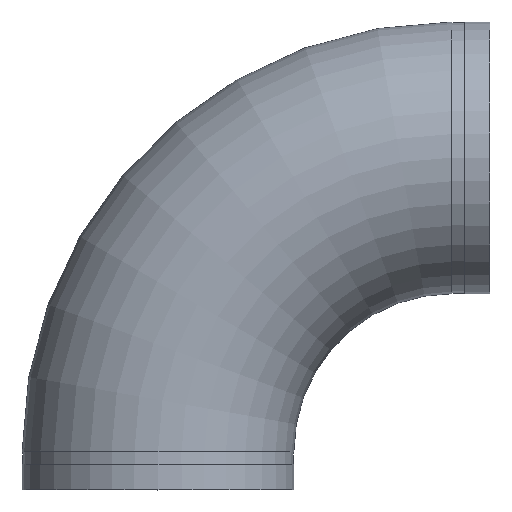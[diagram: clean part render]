
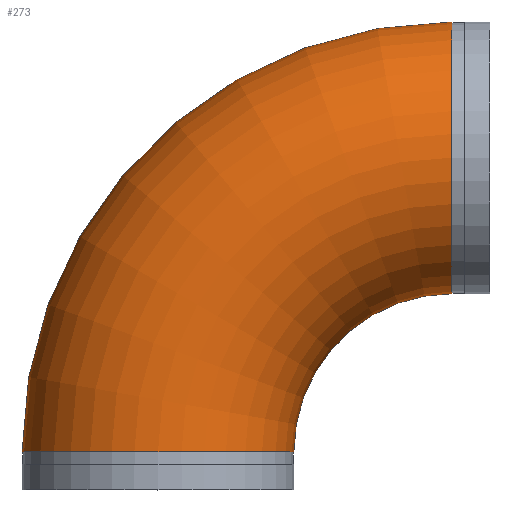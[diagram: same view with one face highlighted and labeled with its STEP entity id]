
A CAD part, top view. The second image highlights one B-rep face of the part: STEP entity #273.
In plain terms, the highlighted toroidal (fillet/blend) face has major radius 295.402 mm and minor radius 136.525 mm.
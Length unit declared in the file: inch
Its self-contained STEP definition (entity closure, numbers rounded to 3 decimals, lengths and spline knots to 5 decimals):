
#46=TOROIDAL_SURFACE('',#329,11.63,5.375);
#81=FACE_OUTER_BOUND('',#99,.T.);
#99=EDGE_LOOP('',(#227,#228,#229,#230,#231,#232));
#105=CIRCLE('',#298,5.375);
#106=CIRCLE('',#299,5.375);
#117=CIRCLE('',#315,5.375);
#118=CIRCLE('',#316,5.375);
#127=CIRCLE('',#330,6.255);
#129=VERTEX_POINT('',#460);
#130=VERTEX_POINT('',#461);
#141=VERTEX_POINT('',#491);
#142=VERTEX_POINT('',#492);
#151=EDGE_CURVE('',#129,#130,#105,.T.);
#152=EDGE_CURVE('',#130,#129,#106,.T.);
#165=EDGE_CURVE('',#141,#142,#117,.T.);
#166=EDGE_CURVE('',#142,#141,#118,.T.);
#178=EDGE_CURVE('',#142,#130,#127,.T.);
#227=ORIENTED_EDGE('',*,*,#165,.F.);
#228=ORIENTED_EDGE('',*,*,#166,.F.);
#229=ORIENTED_EDGE('',*,*,#178,.T.);
#230=ORIENTED_EDGE('',*,*,#152,.T.);
#231=ORIENTED_EDGE('',*,*,#151,.T.);
#232=ORIENTED_EDGE('',*,*,#178,.F.);
#273=ADVANCED_FACE('',(#81),#46,.T.);
#298=AXIS2_PLACEMENT_3D('',#462,#352,#353);
#299=AXIS2_PLACEMENT_3D('',#463,#354,#355);
#315=AXIS2_PLACEMENT_3D('',#493,#388,#389);
#316=AXIS2_PLACEMENT_3D('',#494,#390,#391);
#329=AXIS2_PLACEMENT_3D('',#517,#419,#420);
#330=AXIS2_PLACEMENT_3D('',#518,#421,#422);
#352=DIRECTION('center_axis',(-1.,0.,0.));
#353=DIRECTION('ref_axis',(0.,-1.,0.));
#354=DIRECTION('center_axis',(-1.,0.,0.));
#355=DIRECTION('ref_axis',(0.,-1.,0.));
#388=DIRECTION('center_axis',(0.,-1.,0.));
#389=DIRECTION('ref_axis',(1.,0.,0.));
#390=DIRECTION('center_axis',(0.,-1.,0.));
#391=DIRECTION('ref_axis',(1.,0.,0.));
#419=DIRECTION('center_axis',(0.,0.,1.));
#420=DIRECTION('ref_axis',(1.,0.,0.));
#421=DIRECTION('center_axis',(0.,0.,-1.));
#422=DIRECTION('ref_axis',(1.,0.,0.));
#460=CARTESIAN_POINT('',(11.63,18.505,0.));
#461=CARTESIAN_POINT('',(11.63,7.755,0.));
#462=CARTESIAN_POINT('Origin',(11.63,13.13,0.));
#463=CARTESIAN_POINT('Origin',(11.63,13.13,0.));
#491=CARTESIAN_POINT('',(-5.375,1.5,0.));
#492=CARTESIAN_POINT('',(5.375,1.5,0.));
#493=CARTESIAN_POINT('Origin',(0.,1.5,0.));
#494=CARTESIAN_POINT('Origin',(0.,1.5,0.));
#517=CARTESIAN_POINT('Origin',(11.63,1.5,0.));
#518=CARTESIAN_POINT('Origin',(11.63,1.5,0.));
